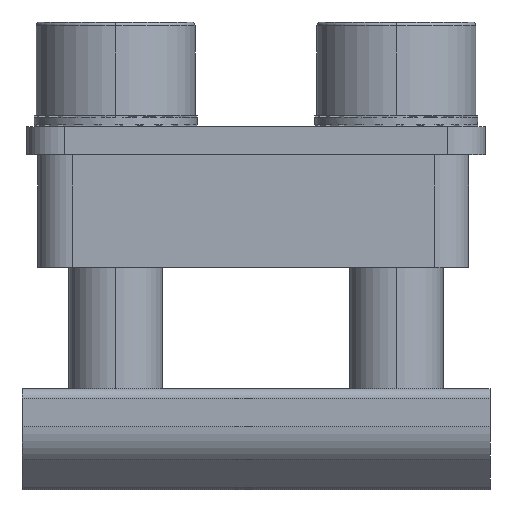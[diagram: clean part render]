
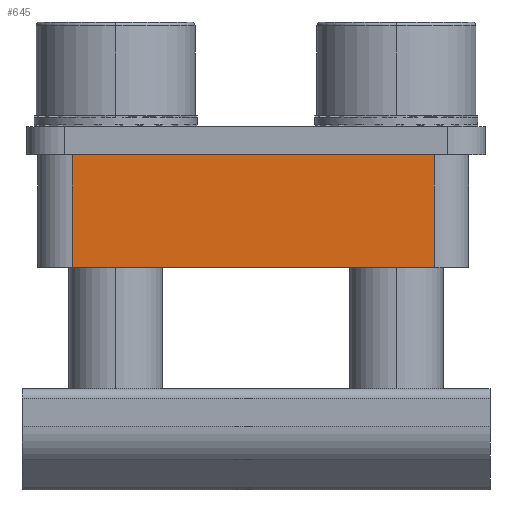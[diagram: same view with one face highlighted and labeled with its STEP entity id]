
A CAD part, front view. The second image highlights one B-rep face of the part: STEP entity #645.
In plain terms, the highlighted planar face has unit normal (0, -1, 0).
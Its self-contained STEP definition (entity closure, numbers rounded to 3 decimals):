
#322 = LINE ( 'NONE', #18354, #20077 ) ;
#645 = ADVANCED_FACE ( 'NONE', ( #20454 ), #24380, .T. ) ;
#737 = LINE ( 'NONE', #23270, #10906 ) ;
#1133 = VERTEX_POINT ( 'NONE', #3429 ) ;
#1284 = EDGE_CURVE ( 'NONE', #3570, #5761, #737, .T. ) ;
#2277 = EDGE_CURVE ( 'NONE', #7773, #3570, #322, .T. ) ;
#3193 = DIRECTION ( 'NONE',  ( -1., 0., 0. ) ) ;
#3429 = CARTESIAN_POINT ( 'NONE',  ( -120.348, -23.9, 58.068 ) ) ;
#3460 = DIRECTION ( 'NONE',  ( -1., 0., 0. ) ) ;
#3570 = VERTEX_POINT ( 'NONE', #17357 ) ;
#4135 = DIRECTION ( 'NONE',  ( 0., 0., -1. ) ) ;
#4152 = LINE ( 'NONE', #14953, #14350 ) ;
#5635 = ORIENTED_EDGE ( 'NONE', *, *, #2277, .T. ) ;
#5761 = VERTEX_POINT ( 'NONE', #20448 ) ;
#5813 = ORIENTED_EDGE ( 'NONE', *, *, #14525, .F. ) ;
#6601 = CARTESIAN_POINT ( 'NONE',  ( -120.348, -23.9, 64.068 ) ) ;
#6621 = CARTESIAN_POINT ( 'NONE',  ( -120.348, -23.9, 64.068 ) ) ;
#6706 = LINE ( 'NONE', #6601, #16899 ) ;
#7625 = DIRECTION ( 'NONE',  ( 0., -1., 0. ) ) ;
#7773 = VERTEX_POINT ( 'NONE', #18336 ) ;
#8241 = EDGE_LOOP ( 'NONE', ( #10345, #5813, #5635, #21647 ) ) ;
#10345 = ORIENTED_EDGE ( 'NONE', *, *, #13635, .F. ) ;
#10906 = VECTOR ( 'NONE', #11809, 1000. ) ;
#11809 = DIRECTION ( 'NONE',  ( 0., 0., -1. ) ) ;
#13635 = EDGE_CURVE ( 'NONE', #1133, #5761, #4152, .T. ) ;
#14350 = VECTOR ( 'NONE', #3460, 1000. ) ;
#14525 = EDGE_CURVE ( 'NONE', #7773, #1133, #6706, .T. ) ;
#14953 = CARTESIAN_POINT ( 'NONE',  ( -120.348, -23.9, 58.068 ) ) ;
#16899 = VECTOR ( 'NONE', #19995, 1000. ) ;
#17357 = CARTESIAN_POINT ( 'NONE',  ( -139.69, -23.9, 64.068 ) ) ;
#18336 = CARTESIAN_POINT ( 'NONE',  ( -120.348, -23.9, 64.068 ) ) ;
#18354 = CARTESIAN_POINT ( 'NONE',  ( -120.348, -23.9, 64.068 ) ) ;
#19995 = DIRECTION ( 'NONE',  ( 0., 0., -1. ) ) ;
#20077 = VECTOR ( 'NONE', #3193, 1000. ) ;
#20448 = CARTESIAN_POINT ( 'NONE',  ( -139.69, -23.9, 58.068 ) ) ;
#20454 = FACE_OUTER_BOUND ( 'NONE', #8241, .T. ) ;
#20633 = AXIS2_PLACEMENT_3D ( 'NONE', #6621, #7625, #4135 ) ;
#21647 = ORIENTED_EDGE ( 'NONE', *, *, #1284, .T. ) ;
#23270 = CARTESIAN_POINT ( 'NONE',  ( -139.69, -23.9, 64.068 ) ) ;
#24380 = PLANE ( 'NONE',  #20633 ) ;
